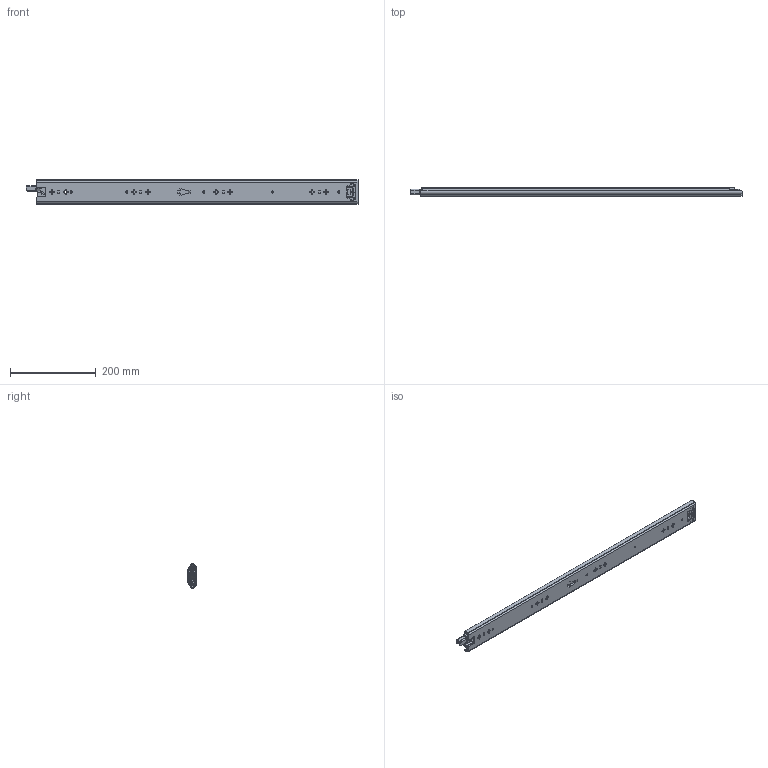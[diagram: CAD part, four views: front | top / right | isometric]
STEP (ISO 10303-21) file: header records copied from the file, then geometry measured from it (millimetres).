
FILE_DESCRIPTION((''),'2;1');
FILE_NAME('KP-57-01ZUZHUANGTU-30YOU_ASM','2023-04-03T',('jishu015'),(''),'PRO/ENGINEER BY PARAMETRIC TECHNOLOGY CORPORATION, 2010280','PRO/ENGINEER BY PARAMETRIC TECHNOLOGY CORPORATION, 2010280','');
FILE_SCHEMA(('CONFIG_CONTROL_DESIGN'));
Products named in the file (21): KP-57-01WEIKE-18____________; 1057WEIJIAO____________; WAIKE___________ASM; KP-57-01ZHONGGUI-18____________; ZHONGGUIPEIJIAN-11__________; ZHONGGUISUOKOU-11__________; KP-57-01ZHONGGUI-18_____________ASM; 1057XIAOZHUJIA____________; 1057-5-6GANZHU____________; 1057XIAOZHUJIA-14GE_____________ASM; KP-57-01NEIGUI-18____________; PJ-57-08__________; DIAOPIAN-11__________; 50XINSUOKOU-1__________; 1053-3SBANJI122________; JIAO11________; KP-57-01NEIGUI-18_____________ASM; 1053ZHUTIAO-175________________; 53-5-6GANZHU________________; 1053ZHUTIAO-175MM___________ASM; KP-57-01ZUZHUANGTU-30YOU_ASM
Assembly tree (84 placements, depth 3):
  KP-57-01ZUZHUANGTU-30YOU_ASM
    WAIKE___________ASM
      KP-57-01WEIKE-18____________
      1057WEIJIAO____________
    KP-57-01ZHONGGUI-18_____________ASM
      KP-57-01ZHONGGUI-18____________
      ZHONGGUIPEIJIAN-11__________
      ZHONGGUISUOKOU-11__________
    1057XIAOZHUJIA-14GE_____________ASM
      1057XIAOZHUJIA____________
      1057-5-6GANZHU____________  x52
    KP-57-01NEIGUI-18_____________ASM
      KP-57-01NEIGUI-18____________
      PJ-57-08__________
      DIAOPIAN-11__________
      50XINSUOKOU-1__________
      1053-3SBANJI122________
      JIAO11________
    1053ZHUTIAO-175MM___________ASM  x2
      1053ZHUTIAO-175________________
      53-5-6GANZHU________________
Bounding box: 775.46 x 19 x 57.67 mm (x, y, z)
Volume: 326994.8 mm3; surface area: 356124.4 mm2
Topology: 94 solids, 94 shells, 2453 faces, 7091 edges, 4439 vertices
Faces by surface type: cylinder 1053, plane 1004, sphere 167, bspline 111, cone 76, extrusion 23, torus 19
Entity records: 79719 total; most frequent: CARTESIAN_POINT 19712, ORIENTED_EDGE 12722, DIRECTION 12333, EDGE_CURVE 6361, AXIS2_PLACEMENT_3D 4251, VERTEX_POINT 4115, VECTOR 3831, LINE 3808
